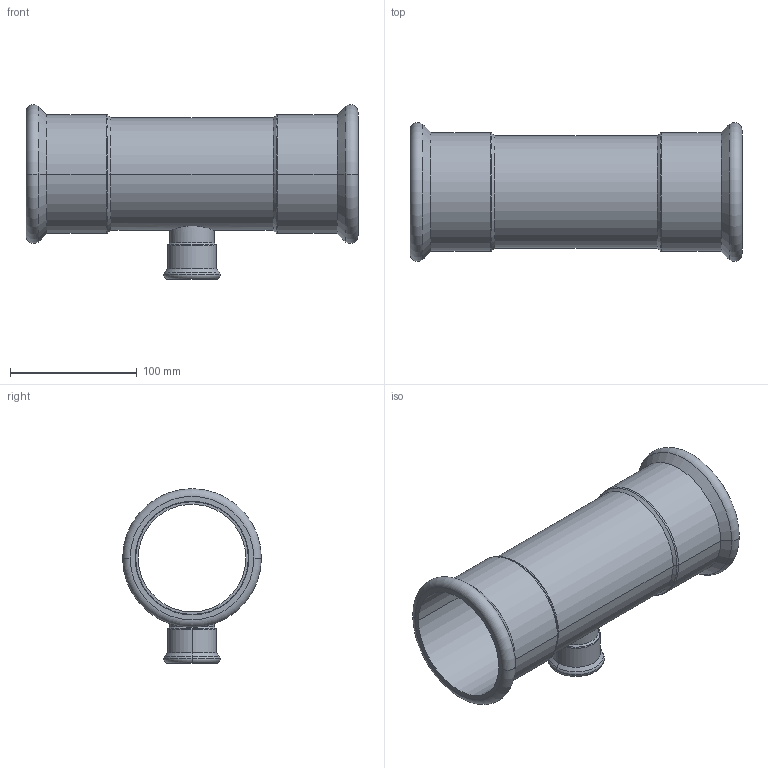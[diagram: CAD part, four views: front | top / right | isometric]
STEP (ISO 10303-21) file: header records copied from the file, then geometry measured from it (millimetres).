
FILE_DESCRIPTION(('CoCreate Modeling STEP Export'),'2;1');
FILE_NAME('C1415 88.9x35x88.9.stp','2014-11-12T10:52:37',(''),(''),'CoCreate Modeling STEP processor for AP214 (Solid Model)','CoCreate Modeling 17.00A 17-Jun-2010 (C) Parametric Technology GmbH','');
FILE_SCHEMA(('AUTOMOTIVE_DESIGN { 1 0 10303 214 1 1 1 1 }'));
Length unit declared in the file: millimetre
Products named in the file (2): C1415_89x35x89
Assembly tree (1 placements, depth 2):
  C1415_89x35x89
    C1415_89x35x89
Bounding box: 262 x 109.48 x 137.74 mm (x, y, z)
Volume: 216218.4 mm3; surface area: 166634 mm2
Topology: 1 solids, 1 shells, 62 faces, 126 edges, 74 vertices
Faces by surface type: cylinder 27, torus 14, cone 12, plane 9
Entity records: 2552 total; most frequent: CARTESIAN_POINT 1389, ORIENTED_EDGE 252, DIRECTION 208, EDGE_CURVE 126, AXIS2_PLACEMENT_3D 85, VERTEX_POINT 74, EDGE_LOOP 72, FACE_OUTER_BOUND 62
